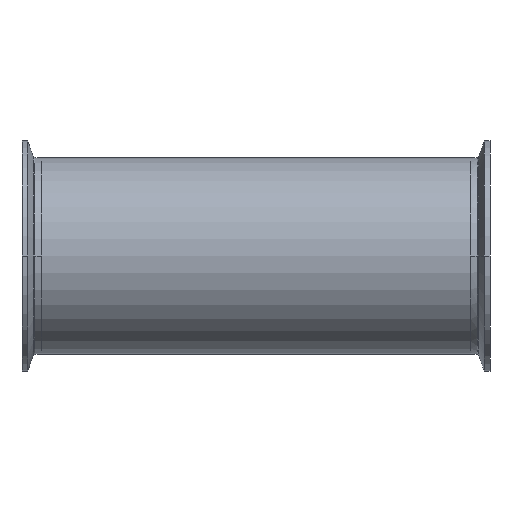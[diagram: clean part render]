
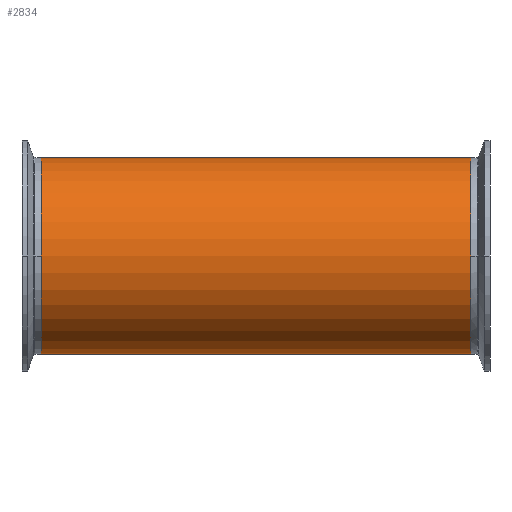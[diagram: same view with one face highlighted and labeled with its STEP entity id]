
A CAD part, front view. The second image highlights one B-rep face of the part: STEP entity #2834.
In plain terms, the highlighted cylindrical face has radius 50.8 mm (diameter 101.6 mm), a partial arc.
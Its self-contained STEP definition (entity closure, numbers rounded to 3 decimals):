
#294 = DIRECTION ( 'NONE',  ( -1., 0., 0. ) ) ;
#326 = EDGE_CURVE ( 'NONE', #3932, #3385, #1641, .T. ) ;
#362 = AXIS2_PLACEMENT_3D ( 'NONE', #1857, #4405, #2231 ) ;
#447 = DIRECTION ( 'NONE',  ( -1., 0., 0. ) ) ;
#463 = CARTESIAN_POINT ( 'NONE',  ( 110.7, 0., 50.8 ) ) ;
#915 = CYLINDRICAL_SURFACE ( 'NONE', #2459, 50.8 ) ;
#955 = DIRECTION ( 'NONE',  ( -1., 0., 0. ) ) ;
#966 = EDGE_LOOP ( 'NONE', ( #3577, #2810, #1497, #2570 ) ) ;
#1132 = VERTEX_POINT ( 'NONE', #3382 ) ;
#1149 = CARTESIAN_POINT ( 'NONE',  ( 254.384, 0., 0. ) ) ;
#1265 = DIRECTION ( 'NONE',  ( 0., 0., 1. ) ) ;
#1497 = ORIENTED_EDGE ( 'NONE', *, *, #3763, .T. ) ;
#1641 = LINE ( 'NONE', #3227, #3635 ) ;
#1857 = CARTESIAN_POINT ( 'NONE',  ( -110.7, 0., 0. ) ) ;
#2231 = DIRECTION ( 'NONE',  ( 0., 0., 1. ) ) ;
#2394 = CIRCLE ( 'NONE', #4545, 50.8 ) ;
#2459 = AXIS2_PLACEMENT_3D ( 'NONE', #1149, #447, #1265 ) ;
#2570 = ORIENTED_EDGE ( 'NONE', *, *, #3052, .T. ) ;
#2620 = VECTOR ( 'NONE', #294, 1000. ) ;
#2810 = ORIENTED_EDGE ( 'NONE', *, *, #4589, .T. ) ;
#2834 = ADVANCED_FACE ( 'NONE', ( #4126 ), #915, .T. ) ;
#2849 = VERTEX_POINT ( 'NONE', #463 ) ;
#3052 = EDGE_CURVE ( 'NONE', #1132, #3385, #3569, .T. ) ;
#3197 = DIRECTION ( 'NONE',  ( -1., 0., 0. ) ) ;
#3227 = CARTESIAN_POINT ( 'NONE',  ( 254.384, 0., -50.8 ) ) ;
#3235 = CARTESIAN_POINT ( 'NONE',  ( 110.7, 0., 0. ) ) ;
#3329 = CARTESIAN_POINT ( 'NONE',  ( 110.7, 0., -50.8 ) ) ;
#3371 = CARTESIAN_POINT ( 'NONE',  ( -110.7, 0., -50.8 ) ) ;
#3382 = CARTESIAN_POINT ( 'NONE',  ( -110.7, 0., 50.8 ) ) ;
#3385 = VERTEX_POINT ( 'NONE', #3371 ) ;
#3569 = CIRCLE ( 'NONE', #362, 50.8 ) ;
#3577 = ORIENTED_EDGE ( 'NONE', *, *, #326, .F. ) ;
#3593 = DIRECTION ( 'NONE',  ( 0., 0., 1. ) ) ;
#3635 = VECTOR ( 'NONE', #3197, 1000. ) ;
#3763 = EDGE_CURVE ( 'NONE', #2849, #1132, #4522, .T. ) ;
#3921 = CARTESIAN_POINT ( 'NONE',  ( 254.384, 0., 50.8 ) ) ;
#3932 = VERTEX_POINT ( 'NONE', #3329 ) ;
#4126 = FACE_OUTER_BOUND ( 'NONE', #966, .T. ) ;
#4405 = DIRECTION ( 'NONE',  ( 1., 0., 0. ) ) ;
#4522 = LINE ( 'NONE', #3921, #2620 ) ;
#4545 = AXIS2_PLACEMENT_3D ( 'NONE', #3235, #955, #3593 ) ;
#4589 = EDGE_CURVE ( 'NONE', #3932, #2849, #2394, .T. ) ;
